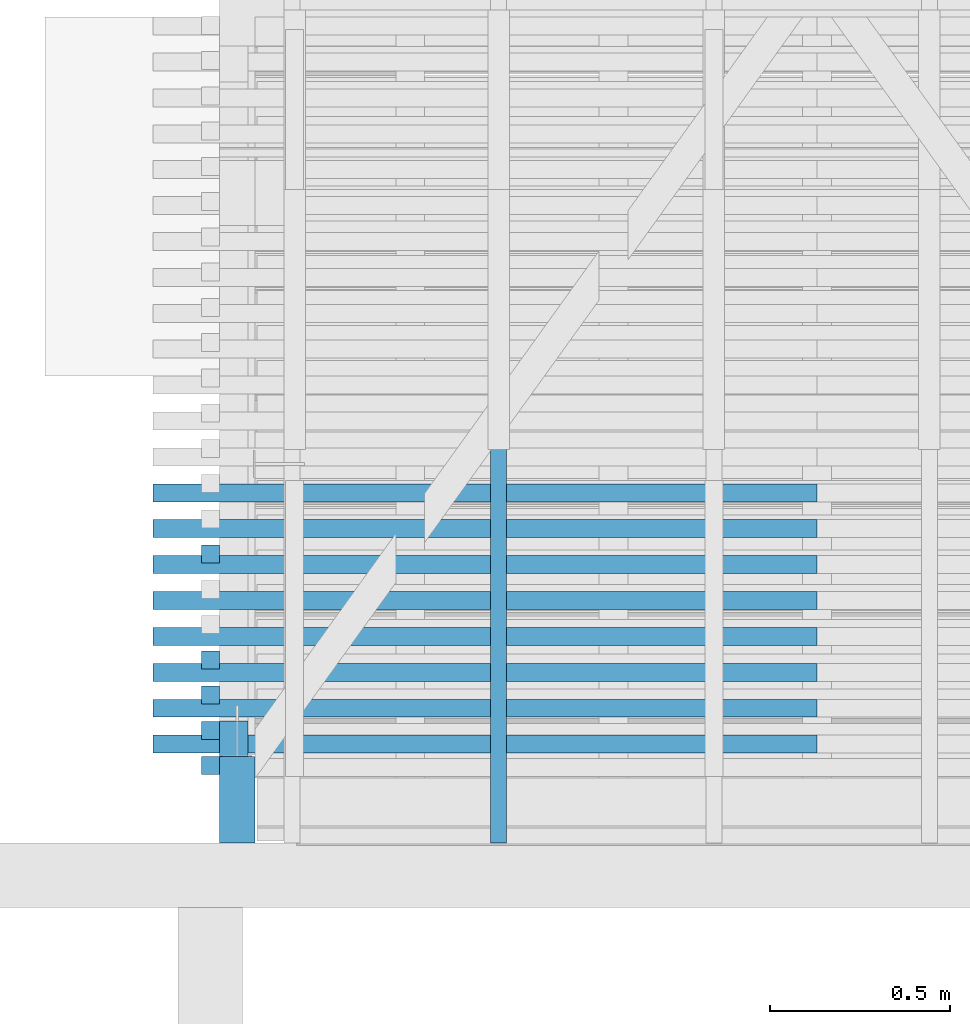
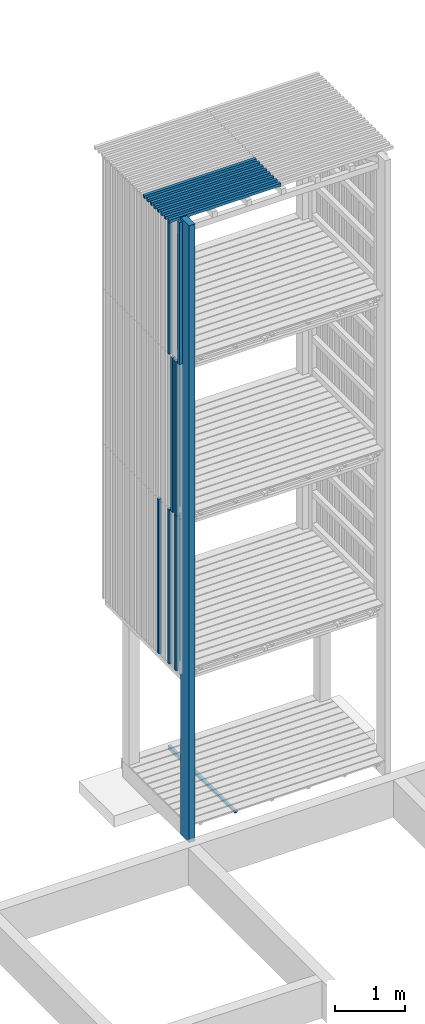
# One storey, part 136 of 182: 20 beams.
"""IFC2X3 building model written with IfcOpenShell, lengths in metres."""

from ifc_helpers import new_model, si_unit, frame, origin, place, context, project, spatial, faceted_brep, element, save


model = new_model("IFC2X3")

# Units and contexts
model_context = context("Model", 3, precision=1e-06, world=origin())
ifc_project = project(units=[si_unit("LENGTHUNIT", "METRE"), si_unit("PLANEANGLEUNIT", "RADIAN")], contexts=[model_context])

# Site, building, storey
site = spatial("IfcSite", under=ifc_project, CompositionType="ELEMENT")
building = spatial("IfcBuilding", under=site, CompositionType="ELEMENT")
storey = spatial("IfcBuildingStorey", under=building, Name="vs", CompositionType="ELEMENT", Elevation=-0.85)

# Beams
placement = place(None, origin())
beam_1_placement = place(placement, frame((33.09499999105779, 10.760077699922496, 8.14699999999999), z_axis=(0.0, 1.0, 0.0), x_axis=(0.0, 0.0, 1.0)))
element("IfcBeam", 1, at=beam_1_placement, inside=storey, Name="Support bardage", context=model_context, shape_type="Brep", body=[
    faceted_brep([(2.017999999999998, -0.039999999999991, 0.05), (2.017999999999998, -0.039999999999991, -0.050000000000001), (2.017999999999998, 0.040000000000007, -0.050000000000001), (2.017999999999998, 0.040000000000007, 0.05), (1e-15, -0.039999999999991, -0.050000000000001), (1e-15, -0.039999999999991, 0.05), (1e-15, 0.040000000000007, 0.05), (1e-15, 0.040000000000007, -0.050000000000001), (2.017999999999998, 0.040000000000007, -0.050000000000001), (2.017999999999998, -0.039999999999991, -0.050000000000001), (1e-15, -0.039999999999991, -0.050000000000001), (1e-15, 0.040000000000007, -0.050000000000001), (1e-15, -0.039999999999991, -0.050000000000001), (2.017999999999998, -0.039999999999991, -0.050000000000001), (2.017999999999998, -0.039999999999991, 0.05), (1e-15, -0.039999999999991, 0.05), (1e-15, -0.039999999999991, 0.05), (2.017999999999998, -0.039999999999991, 0.05), (2.017999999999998, 0.040000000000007, 0.05), (1e-15, 0.040000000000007, 0.05), (1e-15, 0.040000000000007, 0.05), (2.017999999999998, 0.040000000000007, 0.05), (2.017999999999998, 0.040000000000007, -0.050000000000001), (1e-15, 0.040000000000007, -0.050000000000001)], [[[0, 1, 2, 3]], [[4, 5, 6, 7]], [[8, 9, 10, 11]], [[12, 13, 14, 15]], [[16, 17, 18, 19]], [[20, 21, 22, 23]]]),
])
beam_2_placement = place(placement, frame((33.83299999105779, 10.470077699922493, -0.015599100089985), z_axis=(0.0, 0.0, 1.0), x_axis=(0.0, 1.0, 0.0)))
element("IfcBeam", 2, at=beam_2_placement, inside=storey, Name="Calage", context=model_context, shape_type="Brep", body=[
    faceted_brep([(0.0, 0.022499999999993, 0.002600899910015), (1.91000000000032, 0.022499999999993, -0.035599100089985), (1.91000000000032, -0.022500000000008, -0.035599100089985), (0.0, -0.022500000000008, 0.002600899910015), (0.0, -0.022500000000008, 0.035599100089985), (0.0, 0.022499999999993, 0.035599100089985), (0.0, 0.022499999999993, 0.002600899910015), (0.0, -0.022500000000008, 0.002600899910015), (0.0, 0.022499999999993, 0.035599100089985), (0.0, -0.022500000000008, 0.035599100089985), (1.91000000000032, -0.022500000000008, 0.035599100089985), (1.91000000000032, 0.022499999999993, 0.035599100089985), (0.0, 0.022499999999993, 0.002600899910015), (0.0, 0.022499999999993, 0.035599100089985), (1.91000000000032, 0.022499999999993, 0.035599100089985), (1.91000000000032, 0.022499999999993, -0.035599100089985), (1.91000000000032, 0.022499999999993, -0.035599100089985), (1.91000000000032, 0.022499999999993, 0.035599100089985), (1.91000000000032, -0.022500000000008, 0.035599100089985), (1.91000000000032, -0.022500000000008, -0.035599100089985), (1.91000000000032, -0.022500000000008, -0.035599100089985), (1.91000000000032, -0.022500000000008, 0.035599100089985), (0.0, -0.022500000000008, 0.035599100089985), (0.0, -0.022500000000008, 0.002600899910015)], [[[0, 1, 2, 3]], [[4, 5, 6, 7]], [[8, 9, 10, 11]], [[12, 13, 14, 15]], [[16, 17, 18, 19]], [[20, 21, 22, 23]]]),
])
beam_3_placement = place(placement, frame((34.719999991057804, 11.045077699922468, 10.47999999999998), z_axis=(0.0, 0.0, 1.0), x_axis=(-1.0, -2e-15, 0.0)))
element("IfcBeam", 3, at=beam_3_placement, inside=storey, Name="Bardage", context=model_context, shape_type="Brep", body=[
    faceted_brep([(1.850000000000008, -0.025000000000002, -0.024999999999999), (1.850000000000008, -0.025000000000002, 0.025000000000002), (-1e-15, -0.025000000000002, 0.025000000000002), (-1e-15, -0.025000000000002, -0.024999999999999), (1.850000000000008, -0.025000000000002, 0.025000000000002), (1.850000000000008, -0.025000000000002, -0.024999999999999), (1.850000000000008, 0.024999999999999, -0.024999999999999), (1.850000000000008, 0.024999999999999, 0.025000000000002), (1.850000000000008, 0.024999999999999, -0.024999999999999), (1.850000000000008, -0.025000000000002, -0.024999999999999), (-1e-15, -0.025000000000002, -0.024999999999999), (-1e-15, 0.025000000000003, -0.024999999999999), (1.850000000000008, 0.024999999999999, 0.025000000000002), (1.850000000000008, 0.024999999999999, -0.024999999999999), (-1e-15, 0.025000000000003, -0.024999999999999), (-1e-15, 0.025000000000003, 0.025000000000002), (-1e-15, -0.025000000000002, 0.025000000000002), (1.850000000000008, -0.025000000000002, 0.025000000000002), (1.850000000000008, 0.024999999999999, 0.025000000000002), (-1e-15, 0.025000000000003, 0.025000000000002), (-1e-15, -0.025000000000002, -0.024999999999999), (-1e-15, -0.025000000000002, 0.025000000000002), (-1e-15, 0.025000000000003, 0.025000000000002), (-1e-15, 0.025000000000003, -0.024999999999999)], [[[0, 1, 2, 3]], [[4, 5, 6, 7]], [[8, 9, 10, 11]], [[12, 13, 14, 15]], [[16, 17, 18, 19]], [[20, 21, 22, 23]]]),
])
beam_4_placement = place(placement, frame((34.719999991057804, 10.845077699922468, 10.47999999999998), z_axis=(0.0, 0.0, 1.0), x_axis=(-1.0, 0.0, 0.0)))
element("IfcBeam", 4, at=beam_4_placement, inside=storey, Name="Bardage", context=model_context, shape_type="Brep", body=[
    faceted_brep([(1.850000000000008, -0.024999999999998, -0.024999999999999), (1.850000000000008, -0.024999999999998, 0.025000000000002), (-1e-15, -0.024999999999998, 0.025000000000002), (-1e-15, -0.024999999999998, -0.024999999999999), (1.850000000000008, -0.024999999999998, 0.025000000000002), (1.850000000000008, -0.024999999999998, -0.024999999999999), (1.850000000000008, 0.025000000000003, -0.024999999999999), (1.850000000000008, 0.025000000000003, 0.025000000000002), (1.850000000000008, 0.025000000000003, -0.024999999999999), (1.850000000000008, -0.024999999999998, -0.024999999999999), (-1e-15, -0.024999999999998, -0.024999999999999), (-1e-15, 0.025000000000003, -0.024999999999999), (1.850000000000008, 0.025000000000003, 0.025000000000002), (1.850000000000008, 0.025000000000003, -0.024999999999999), (-1e-15, 0.025000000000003, -0.024999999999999), (-1e-15, 0.025000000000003, 0.025000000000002), (-1e-15, -0.024999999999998, 0.025000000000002), (1.850000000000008, -0.024999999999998, 0.025000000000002), (1.850000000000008, 0.025000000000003, 0.025000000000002), (-1e-15, 0.025000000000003, 0.025000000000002), (-1e-15, -0.024999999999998, -0.024999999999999), (-1e-15, -0.024999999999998, 0.025000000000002), (-1e-15, 0.025000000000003, 0.025000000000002), (-1e-15, 0.025000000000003, -0.024999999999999)], [[[0, 1, 2, 3]], [[4, 5, 6, 7]], [[8, 9, 10, 11]], [[12, 13, 14, 15]], [[16, 17, 18, 19]], [[20, 21, 22, 23]]]),
])
beam_5_placement = place(placement, frame((34.719999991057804, 11.345077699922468, 10.47999999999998), z_axis=(0.0, 0.0, 1.0), x_axis=(-1.0, 0.0, 0.0)))
element("IfcBeam", 5, at=beam_5_placement, inside=storey, Name="Bardage", context=model_context, shape_type="Brep", body=[
    faceted_brep([(1.850000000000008, -0.024999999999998, -0.024999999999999), (1.850000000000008, -0.024999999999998, 0.025000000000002), (-1e-15, -0.024999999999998, 0.025000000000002), (-1e-15, -0.024999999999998, -0.024999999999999), (1.850000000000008, -0.024999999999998, 0.025000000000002), (1.850000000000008, -0.024999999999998, -0.024999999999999), (1.850000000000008, 0.025000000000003, -0.024999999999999), (1.850000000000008, 0.025000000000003, 0.025000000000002), (1.850000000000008, 0.025000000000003, -0.024999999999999), (1.850000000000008, -0.024999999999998, -0.024999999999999), (-1e-15, -0.024999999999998, -0.024999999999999), (-1e-15, 0.024999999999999, -0.024999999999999), (1.850000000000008, 0.025000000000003, 0.025000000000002), (1.850000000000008, 0.025000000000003, -0.024999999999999), (-1e-15, 0.024999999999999, -0.024999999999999), (-1e-15, 0.024999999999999, 0.025000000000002), (-1e-15, -0.024999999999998, 0.025000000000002), (1.850000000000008, -0.024999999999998, 0.025000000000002), (1.850000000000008, 0.025000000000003, 0.025000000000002), (-1e-15, 0.024999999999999, 0.025000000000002), (-1e-15, -0.024999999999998, -0.024999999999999), (-1e-15, -0.024999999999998, 0.025000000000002), (-1e-15, 0.024999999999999, 0.025000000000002), (-1e-15, 0.024999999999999, -0.024999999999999)], [[[0, 1, 2, 3]], [[4, 5, 6, 7]], [[8, 9, 10, 11]], [[12, 13, 14, 15]], [[16, 17, 18, 19]], [[20, 21, 22, 23]]]),
])
beam_6_placement = place(placement, frame((34.719999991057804, 10.745077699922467, 10.47999999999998), z_axis=(0.0, 0.0, 1.0), x_axis=(-1.0, 0.0, 0.0)))
element("IfcBeam", 6, at=beam_6_placement, inside=storey, Name="Bardage", context=model_context, shape_type="Brep", body=[
    faceted_brep([(1.850000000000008, -0.025000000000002, -0.024999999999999), (1.850000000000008, -0.025000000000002, 0.025000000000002), (-1e-15, -0.025000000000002, 0.025000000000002), (-1e-15, -0.025000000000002, -0.024999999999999), (1.850000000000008, -0.025000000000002, 0.025000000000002), (1.850000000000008, -0.025000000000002, -0.024999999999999), (1.850000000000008, 0.024999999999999, -0.024999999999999), (1.850000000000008, 0.024999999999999, 0.025000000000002), (1.850000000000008, 0.024999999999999, -0.024999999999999), (1.850000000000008, -0.025000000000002, -0.024999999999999), (-1e-15, -0.025000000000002, -0.024999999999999), (-1e-15, 0.024999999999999, -0.024999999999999), (1.850000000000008, 0.024999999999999, 0.025000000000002), (1.850000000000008, 0.024999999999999, -0.024999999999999), (-1e-15, 0.024999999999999, -0.024999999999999), (-1e-15, 0.024999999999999, 0.025000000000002), (-1e-15, -0.025000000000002, 0.025000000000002), (1.850000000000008, -0.025000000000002, 0.025000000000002), (1.850000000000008, 0.024999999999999, 0.025000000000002), (-1e-15, 0.024999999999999, 0.025000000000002), (-1e-15, -0.025000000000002, -0.024999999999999), (-1e-15, -0.025000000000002, 0.025000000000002), (-1e-15, 0.024999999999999, 0.025000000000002), (-1e-15, 0.024999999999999, -0.024999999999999)], [[[0, 1, 2, 3]], [[4, 5, 6, 7]], [[8, 9, 10, 11]], [[12, 13, 14, 15]], [[16, 17, 18, 19]], [[20, 21, 22, 23]]]),
])
beam_7_placement = place(placement, frame((34.719999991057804, 11.245077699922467, 10.47999999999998), z_axis=(0.0, 0.0, 1.0), x_axis=(-1.0, 0.0, 0.0)))
element("IfcBeam", 7, at=beam_7_placement, inside=storey, Name="Bardage", context=model_context, shape_type="Brep", body=[
    faceted_brep([(1.850000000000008, -0.024999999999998, -0.024999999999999), (1.850000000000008, -0.024999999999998, 0.025000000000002), (-1e-15, -0.024999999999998, 0.025000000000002), (-1e-15, -0.024999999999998, -0.024999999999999), (1.850000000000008, -0.024999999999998, 0.025000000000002), (1.850000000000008, -0.024999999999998, -0.024999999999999), (1.850000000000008, 0.024999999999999, -0.024999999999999), (1.850000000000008, 0.024999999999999, 0.025000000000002), (1.850000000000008, 0.024999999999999, -0.024999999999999), (1.850000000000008, -0.024999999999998, -0.024999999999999), (-1e-15, -0.024999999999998, -0.024999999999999), (-1e-15, 0.024999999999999, -0.024999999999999), (1.850000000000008, 0.024999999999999, 0.025000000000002), (1.850000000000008, 0.024999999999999, -0.024999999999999), (-1e-15, 0.024999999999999, -0.024999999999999), (-1e-15, 0.024999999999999, 0.025000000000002), (-1e-15, -0.024999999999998, 0.025000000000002), (1.850000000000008, -0.024999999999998, 0.025000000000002), (1.850000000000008, 0.024999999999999, 0.025000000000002), (-1e-15, 0.024999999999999, 0.025000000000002), (-1e-15, -0.024999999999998, -0.024999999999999), (-1e-15, -0.024999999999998, 0.025000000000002), (-1e-15, 0.024999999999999, 0.025000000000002), (-1e-15, 0.024999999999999, -0.024999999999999)], [[[0, 1, 2, 3]], [[4, 5, 6, 7]], [[8, 9, 10, 11]], [[12, 13, 14, 15]], [[16, 17, 18, 19]], [[20, 21, 22, 23]]]),
])
beam_8_placement = place(placement, frame((33.029999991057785, 11.274168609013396, 2.575000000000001), z_axis=(1.0, 0.0, 0.0), x_axis=(0.0, 1e-15, 1.0)))
element("IfcBeam", 8, at=beam_8_placement, inside=storey, Name="Bardage", context=model_context, shape_type="Brep", body=[
    faceted_brep([(2.699961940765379, -0.024999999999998, 0.025000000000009), (2.699961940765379, -0.024999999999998, -0.025000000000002), (2.699961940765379, 0.025000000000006, -0.025000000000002), (2.699961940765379, 0.025000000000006, 0.025000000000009), (0.0, -0.025000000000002, 0.025000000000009), (2.699961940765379, -0.024999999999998, 0.025000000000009), (2.699961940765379, 0.025000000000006, 0.025000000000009), (0.0, 0.025000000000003, 0.025000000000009), (0.0, -0.025000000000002, 0.025000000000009), (0.0, 0.025000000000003, 0.025000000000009), (0.0, 0.025000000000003, -0.025000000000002), (0.0, -0.025000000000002, -0.025000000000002), (0.0, -0.025000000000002, 0.025000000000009), (0.0, -0.025000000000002, -0.025000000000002), (2.699961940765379, -0.024999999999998, -0.025000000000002), (2.699961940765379, -0.024999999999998, 0.025000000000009), (0.0, -0.025000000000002, -0.025000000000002), (0.0, 0.025000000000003, -0.025000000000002), (2.699961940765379, 0.025000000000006, -0.025000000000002), (2.699961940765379, -0.024999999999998, -0.025000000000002), (0.0, 0.025000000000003, -0.025000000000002), (0.0, 0.025000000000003, 0.025000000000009), (2.699961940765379, 0.025000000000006, 0.025000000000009), (2.699961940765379, 0.025000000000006, -0.025000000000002)], [[[0, 1, 2, 3]], [[4, 5, 6, 7]], [[8, 9, 10, 11]], [[12, 13, 14, 15]], [[16, 17, 18, 19]], [[20, 21, 22, 23]]]),
])
beam_9_placement = place(placement, frame((33.029999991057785, 10.979623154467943, 7.974999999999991), z_axis=(1.0, 0.0, 0.0), x_axis=(0.0, 1e-15, 1.0)))
element("IfcBeam", 9, at=beam_9_placement, inside=storey, Name="Bardage", context=model_context, shape_type="Brep", body=[
    faceted_brep([(0.0, -0.025000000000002, 0.025000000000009), (0.0, 0.024999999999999, 0.025000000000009), (0.0, 0.024999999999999, -0.025000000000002), (0.0, -0.025000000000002, -0.025000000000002), (2.479999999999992, 0.025000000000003, -0.025000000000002), (2.479999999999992, 0.025000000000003, 0.025000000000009), (2.479999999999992, -0.024999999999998, 0.025000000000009), (2.479999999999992, -0.024999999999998, -0.025000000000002), (0.0, 0.024999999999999, 0.025000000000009), (0.0, -0.025000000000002, 0.025000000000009), (2.479999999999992, -0.024999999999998, 0.025000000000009), (2.479999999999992, 0.025000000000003, 0.025000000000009), (0.0, 0.024999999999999, -0.025000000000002), (0.0, 0.024999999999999, 0.025000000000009), (2.479999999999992, 0.025000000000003, 0.025000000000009), (2.479999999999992, 0.025000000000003, -0.025000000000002), (0.0, -0.025000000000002, -0.025000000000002), (0.0, 0.024999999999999, -0.025000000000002), (2.479999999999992, 0.025000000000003, -0.025000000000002), (2.479999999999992, -0.024999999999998, -0.025000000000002), (2.479999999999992, -0.024999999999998, 0.025000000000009), (0.0, -0.025000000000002, 0.025000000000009), (0.0, -0.025000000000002, -0.025000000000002), (2.479999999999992, -0.024999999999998, -0.025000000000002)], [[[0, 1, 2, 3]], [[4, 5, 6, 7]], [[8, 9, 10, 11]], [[12, 13, 14, 15]], [[16, 17, 18, 19]], [[20, 21, 22, 23]]]),
])
beam_10_placement = place(placement, frame((33.029999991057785, 10.979623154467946, 2.575000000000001), z_axis=(1.0, 0.0, 0.0), x_axis=(0.0, 0.0, 1.0)))
element("IfcBeam", 10, at=beam_10_placement, inside=storey, Name="Bardage", context=model_context, shape_type="Brep", body=[
    faceted_brep([(2.699961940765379, -0.025000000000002, 0.025000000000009), (2.699961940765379, -0.025000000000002, -0.025000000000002), (2.699961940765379, 0.025000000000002, -0.025000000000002), (2.699961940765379, 0.025000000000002, 0.025000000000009), (0.0, -0.024999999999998, 0.025000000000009), (2.699961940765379, -0.025000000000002, 0.025000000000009), (2.699961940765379, 0.025000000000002, 0.025000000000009), (0.0, 0.025000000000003, 0.025000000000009), (0.0, -0.024999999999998, 0.025000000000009), (0.0, 0.025000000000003, 0.025000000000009), (0.0, 0.025000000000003, -0.025000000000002), (0.0, -0.024999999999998, -0.025000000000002), (0.0, -0.024999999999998, 0.025000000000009), (0.0, -0.024999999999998, -0.025000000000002), (2.699961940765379, -0.025000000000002, -0.025000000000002), (2.699961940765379, -0.025000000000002, 0.025000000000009), (0.0, -0.024999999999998, -0.025000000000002), (0.0, 0.025000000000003, -0.025000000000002), (2.699961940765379, 0.025000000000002, -0.025000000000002), (2.699961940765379, -0.025000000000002, -0.025000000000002), (0.0, 0.025000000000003, -0.025000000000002), (0.0, 0.025000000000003, 0.025000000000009), (2.699961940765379, 0.025000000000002, 0.025000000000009), (2.699961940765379, 0.025000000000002, -0.025000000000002)], [[[0, 1, 2, 3]], [[4, 5, 6, 7]], [[8, 9, 10, 11]], [[12, 13, 14, 15]], [[16, 17, 18, 19]], [[20, 21, 22, 23]]]),
])
beam_11_placement = place(placement, frame((34.719999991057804, 10.945077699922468, 10.47999999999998), z_axis=(0.0, 0.0, 1.0), x_axis=(-1.0, -2e-15, 0.0)))
element("IfcBeam", 11, at=beam_11_placement, inside=storey, Name="Bardage", context=model_context, shape_type="Brep", body=[
    faceted_brep([(1.850000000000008, -0.025000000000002, -0.024999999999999), (1.850000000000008, -0.025000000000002, 0.025000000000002), (-1e-15, -0.024999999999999, 0.025000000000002), (-1e-15, -0.024999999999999, -0.024999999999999), (1.850000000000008, -0.025000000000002, 0.025000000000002), (1.850000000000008, -0.025000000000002, -0.024999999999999), (1.850000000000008, 0.025000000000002, -0.024999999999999), (1.850000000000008, 0.025000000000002, 0.025000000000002), (1.850000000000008, 0.025000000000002, -0.024999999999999), (1.850000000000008, -0.025000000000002, -0.024999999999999), (-1e-15, -0.024999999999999, -0.024999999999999), (0.0, 0.025000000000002, -0.024999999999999), (1.850000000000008, 0.025000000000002, 0.025000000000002), (1.850000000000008, 0.025000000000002, -0.024999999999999), (0.0, 0.025000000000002, -0.024999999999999), (0.0, 0.025000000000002, 0.025000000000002), (-1e-15, -0.024999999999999, 0.025000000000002), (1.850000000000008, -0.025000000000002, 0.025000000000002), (1.850000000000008, 0.025000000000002, 0.025000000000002), (0.0, 0.025000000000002, 0.025000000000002), (-1e-15, -0.024999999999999, -0.024999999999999), (-1e-15, -0.024999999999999, 0.025000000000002), (0.0, 0.025000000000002, 0.025000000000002), (0.0, 0.025000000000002, -0.024999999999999)], [[[0, 1, 2, 3]], [[4, 5, 6, 7]], [[8, 9, 10, 11]], [[12, 13, 14, 15]], [[16, 17, 18, 19]], [[20, 21, 22, 23]]]),
])
beam_12_placement = place(placement, frame((33.104999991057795, 10.590077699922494, 10.494999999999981), z_axis=(0.0, 1.0, 0.0), x_axis=(0.0, 0.0, -1.0)))
element("IfcBeam", 12, at=beam_12_placement, inside=storey, Name="Poteau", context=model_context, shape_type="Brep", body=[
    faceted_brep([(0.0, -0.049999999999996, 0.120000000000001), (0.0, -0.049999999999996, -0.120000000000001), (10.754999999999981, -0.049999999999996, -0.120000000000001), (10.754999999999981, -0.049999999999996, 0.120000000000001), (10.754999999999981, -0.049999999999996, -0.120000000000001), (0.0, -0.049999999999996, -0.120000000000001), (0.0, 0.049999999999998, -0.120000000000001), (10.754999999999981, 0.049999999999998, -0.120000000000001), (10.754999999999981, -0.049999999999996, 0.120000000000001), (10.754999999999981, -0.049999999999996, -0.120000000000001), (10.754999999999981, 0.049999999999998, -0.120000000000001), (10.754999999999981, 0.049999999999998, 0.120000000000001), (0.0, -0.049999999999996, 0.120000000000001), (10.754999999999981, -0.049999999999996, 0.120000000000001), (10.754999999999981, 0.049999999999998, 0.120000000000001), (0.0, 0.049999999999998, 0.120000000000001), (10.754999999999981, 0.049999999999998, -0.120000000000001), (0.0, 0.049999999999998, -0.120000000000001), (0.0, 0.049999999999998, 0.120000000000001), (10.754999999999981, 0.049999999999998, 0.120000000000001), (0.0, 0.049999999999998, 0.120000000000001), (0.0, 0.049999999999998, -0.120000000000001), (0.0, -0.049999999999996, -0.120000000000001), (0.0, -0.049999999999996, 0.120000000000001)], [[[0, 1, 2, 3]], [[4, 5, 6, 7]], [[8, 9, 10, 11]], [[12, 13, 14, 15]], [[16, 17, 18, 19]], [[20, 21, 22, 23]]]),
])
beam_13_placement = place(placement, frame((33.029999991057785, 10.881441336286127, 5.274999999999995), z_axis=(1.0, 0.0, 0.0), x_axis=(0.0, 0.0, 1.0)))
element("IfcBeam", 13, at=beam_13_placement, inside=storey, Name="Bardage", context=model_context, shape_type="Brep", body=[
    faceted_brep([(2.699999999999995, 0.024999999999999, 0.025000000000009), (2.699999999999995, -0.024999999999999, 0.025000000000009), (2.699999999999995, -0.024999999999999, -0.025000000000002), (2.699999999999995, 0.024999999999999, -0.025000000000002), (1e-15, 0.024999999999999, 0.025000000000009), (2.699999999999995, 0.024999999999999, 0.025000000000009), (2.699999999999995, 0.024999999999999, -0.025000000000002), (1e-15, 0.024999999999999, -0.025000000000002), (1e-15, -0.024999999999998, 0.025000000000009), (1e-15, 0.024999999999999, 0.025000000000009), (1e-15, 0.024999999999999, -0.025000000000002), (1e-15, -0.024999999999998, -0.025000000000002), (1e-15, 0.024999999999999, 0.025000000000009), (1e-15, -0.024999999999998, 0.025000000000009), (2.699999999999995, -0.024999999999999, 0.025000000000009), (2.699999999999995, 0.024999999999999, 0.025000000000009), (1e-15, -0.024999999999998, 0.025000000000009), (1e-15, -0.024999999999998, -0.025000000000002), (2.699999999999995, -0.024999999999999, -0.025000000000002), (2.699999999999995, -0.024999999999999, 0.025000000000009), (1e-15, -0.024999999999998, -0.025000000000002), (1e-15, 0.024999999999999, -0.025000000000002), (2.699999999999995, 0.024999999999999, -0.025000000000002), (2.699999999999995, -0.024999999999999, -0.025000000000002)], [[[0, 1, 2, 3]], [[4, 5, 6, 7]], [[8, 9, 10, 11]], [[12, 13, 14, 15]], [[16, 17, 18, 19]], [[20, 21, 22, 23]]]),
])
beam_14_placement = place(placement, frame((33.029999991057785, 10.783259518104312, 5.274999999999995), z_axis=(1.0, 0.0, 0.0), x_axis=(0.0, 0.0, 1.0)))
element("IfcBeam", 14, at=beam_14_placement, inside=storey, Name="Bardage", context=model_context, shape_type="Brep", body=[
    faceted_brep([(2.699999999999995, 0.025000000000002, 0.025000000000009), (2.699999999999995, -0.024999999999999, 0.025000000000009), (2.699999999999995, -0.024999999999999, -0.025000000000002), (2.699999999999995, 0.025000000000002, -0.025000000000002), (1e-15, 0.025000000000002, 0.025000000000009), (2.699999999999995, 0.025000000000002, 0.025000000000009), (2.699999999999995, 0.025000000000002, -0.025000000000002), (1e-15, 0.025000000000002, -0.025000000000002), (1e-15, -0.024999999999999, 0.025000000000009), (1e-15, 0.025000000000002, 0.025000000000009), (1e-15, 0.025000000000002, -0.025000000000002), (1e-15, -0.024999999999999, -0.025000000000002), (1e-15, 0.025000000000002, 0.025000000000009), (1e-15, -0.024999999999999, 0.025000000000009), (2.699999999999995, -0.024999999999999, 0.025000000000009), (2.699999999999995, 0.025000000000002, 0.025000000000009), (1e-15, -0.024999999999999, 0.025000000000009), (1e-15, -0.024999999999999, -0.025000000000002), (2.699999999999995, -0.024999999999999, -0.025000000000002), (2.699999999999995, -0.024999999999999, 0.025000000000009), (1e-15, -0.024999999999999, -0.025000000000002), (1e-15, 0.025000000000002, -0.025000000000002), (2.699999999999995, 0.025000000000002, -0.025000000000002), (2.699999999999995, -0.024999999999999, -0.025000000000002)], [[[0, 1, 2, 3]], [[4, 5, 6, 7]], [[8, 9, 10, 11]], [[12, 13, 14, 15]], [[16, 17, 18, 19]], [[20, 21, 22, 23]]]),
])
beam_15_placement = place(placement, frame((33.09499999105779, 10.760077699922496, 2.746999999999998), z_axis=(0.0, 1.0, 0.0), x_axis=(0.0, 0.0, 1.0)))
element("IfcBeam", 15, at=beam_15_placement, inside=storey, Name="Support bardage", context=model_context, shape_type="Brep", body=[
    faceted_brep([(2.527961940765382, 0.040000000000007, -0.050000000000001), (2.527961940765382, 0.040000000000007, 0.05), (2.527961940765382, -0.039999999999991, 0.05), (2.527961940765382, -0.039999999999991, -0.050000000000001), (0.0, 0.040000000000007, -0.050000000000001), (2.527961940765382, 0.040000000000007, -0.050000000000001), (2.527961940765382, -0.039999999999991, -0.050000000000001), (0.0, -0.039999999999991, -0.050000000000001), (0.0, 0.040000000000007, -0.050000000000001), (0.0, -0.039999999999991, -0.050000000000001), (0.0, -0.039999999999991, 0.05), (0.0, 0.040000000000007, 0.05), (0.0, 0.040000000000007, -0.050000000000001), (0.0, 0.040000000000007, 0.05), (2.527961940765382, 0.040000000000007, 0.05), (2.527961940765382, 0.040000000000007, -0.050000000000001), (0.0, 0.040000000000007, 0.05), (0.0, -0.039999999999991, 0.05), (2.527961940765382, -0.039999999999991, 0.05), (2.527961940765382, 0.040000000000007, 0.05), (0.0, -0.039999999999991, 0.05), (0.0, -0.039999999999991, -0.050000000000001), (2.527961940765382, -0.039999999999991, -0.050000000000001), (2.527961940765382, -0.039999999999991, 0.05)], [[[0, 1, 2, 3]], [[4, 5, 6, 7]], [[8, 9, 10, 11]], [[12, 13, 14, 15]], [[16, 17, 18, 19]], [[20, 21, 22, 23]]]),
])
beam_16_placement = place(placement, frame((34.719999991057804, 11.44507769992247, 10.47999999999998), z_axis=(0.0, 0.0, 1.0), x_axis=(-1.0, -2e-15, 0.0)))
element("IfcBeam", 16, at=beam_16_placement, inside=storey, Name="Bardage", context=model_context, shape_type="Brep", body=[
    faceted_brep([(1.850000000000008, -0.025000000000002, -0.024999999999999), (1.850000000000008, -0.025000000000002, 0.025000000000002), (-1e-15, -0.024999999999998, 0.025000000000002), (-1e-15, -0.024999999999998, -0.024999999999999), (1.850000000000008, -0.025000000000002, 0.025000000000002), (1.850000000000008, -0.025000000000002, -0.024999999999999), (1.850000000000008, 0.025000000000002, -0.024999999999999), (1.850000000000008, 0.025000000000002, 0.025000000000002), (1.850000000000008, 0.025000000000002, -0.024999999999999), (1.850000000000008, -0.025000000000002, -0.024999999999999), (-1e-15, -0.024999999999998, -0.024999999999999), (-1e-15, 0.025000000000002, -0.024999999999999), (1.850000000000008, 0.025000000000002, 0.025000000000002), (1.850000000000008, 0.025000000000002, -0.024999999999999), (-1e-15, 0.025000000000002, -0.024999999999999), (-1e-15, 0.025000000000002, 0.025000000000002), (-1e-15, -0.024999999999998, 0.025000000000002), (1.850000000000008, -0.025000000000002, 0.025000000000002), (1.850000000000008, 0.025000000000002, 0.025000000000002), (-1e-15, 0.025000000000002, 0.025000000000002), (-1e-15, -0.024999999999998, -0.024999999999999), (-1e-15, -0.024999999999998, 0.025000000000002), (-1e-15, 0.025000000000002, 0.025000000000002), (-1e-15, 0.025000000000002, -0.024999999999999)], [[[0, 1, 2, 3]], [[4, 5, 6, 7]], [[8, 9, 10, 11]], [[12, 13, 14, 15]], [[16, 17, 18, 19]], [[20, 21, 22, 23]]]),
])
beam_17_placement = place(placement, frame((33.09499999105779, 10.760077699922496, 5.446999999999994), z_axis=(0.0, 1.0, 0.0), x_axis=(0.0, 0.0, 1.0)))
element("IfcBeam", 17, at=beam_17_placement, inside=storey, Name="Support bardage", context=model_context, shape_type="Brep", body=[
    faceted_brep([(2.527999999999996, -0.039999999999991, -0.050000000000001), (2.527999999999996, 0.040000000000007, -0.050000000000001), (2.527999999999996, 0.040000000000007, 0.05), (2.527999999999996, -0.039999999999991, 0.05), (-1e-15, -0.039999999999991, -0.050000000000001), (2.527999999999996, -0.039999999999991, -0.050000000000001), (2.527999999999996, -0.039999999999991, 0.05), (-1e-15, -0.039999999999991, 0.05), (-1e-15, -0.039999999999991, -0.050000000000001), (-1e-15, -0.039999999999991, 0.05), (-1e-15, 0.040000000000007, 0.05), (-1e-15, 0.040000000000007, -0.050000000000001), (-1e-15, -0.039999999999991, -0.050000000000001), (-1e-15, 0.040000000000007, -0.050000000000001), (2.527999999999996, 0.040000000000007, -0.050000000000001), (2.527999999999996, -0.039999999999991, -0.050000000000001), (-1e-15, 0.040000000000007, -0.050000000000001), (-1e-15, 0.040000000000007, 0.05), (2.527999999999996, 0.040000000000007, 0.05), (2.527999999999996, 0.040000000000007, -0.050000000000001), (-1e-15, 0.040000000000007, 0.05), (-1e-15, -0.039999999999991, 0.05), (2.527999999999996, -0.039999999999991, 0.05), (2.527999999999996, 0.040000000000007, 0.05)], [[[0, 1, 2, 3]], [[4, 5, 6, 7]], [[8, 9, 10, 11]], [[12, 13, 14, 15]], [[16, 17, 18, 19]], [[20, 21, 22, 23]]]),
])
beam_18_placement = place(placement, frame((33.029999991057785, 10.6850776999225, 7.974999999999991), z_axis=(1.0, 0.0, 0.0), x_axis=(0.0, 0.0, 1.0)))
element("IfcBeam", 18, at=beam_18_placement, inside=storey, Name="Bardage", context=model_context, shape_type="Brep", body=[
    faceted_brep([(0.0, -0.024999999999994, 0.025000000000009), (0.0, 0.025000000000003, 0.025000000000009), (0.0, 0.025000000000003, -0.025000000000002), (0.0, -0.024999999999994, -0.025000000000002), (2.479999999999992, 0.025000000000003, -0.025000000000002), (2.479999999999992, 0.025000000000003, 0.025000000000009), (2.479999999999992, -0.024999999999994, 0.025000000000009), (2.479999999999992, -0.024999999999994, -0.025000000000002), (0.0, 0.025000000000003, 0.025000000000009), (0.0, -0.024999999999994, 0.025000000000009), (2.479999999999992, -0.024999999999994, 0.025000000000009), (2.479999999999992, 0.025000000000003, 0.025000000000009), (0.0, 0.025000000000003, -0.025000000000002), (0.0, 0.025000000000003, 0.025000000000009), (2.479999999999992, 0.025000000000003, 0.025000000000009), (2.479999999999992, 0.025000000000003, -0.025000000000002), (0.0, -0.024999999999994, -0.025000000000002), (0.0, 0.025000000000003, -0.025000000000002), (2.479999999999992, 0.025000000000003, -0.025000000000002), (2.479999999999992, -0.024999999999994, -0.025000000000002), (2.479999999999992, -0.024999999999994, 0.025000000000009), (0.0, -0.024999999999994, 0.025000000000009), (0.0, -0.024999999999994, -0.025000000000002), (2.479999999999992, -0.024999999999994, -0.025000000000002)], [[[0, 1, 2, 3]], [[4, 5, 6, 7]], [[8, 9, 10, 11]], [[12, 13, 14, 15]], [[16, 17, 18, 19]], [[20, 21, 22, 23]]]),
])
beam_19_placement = place(placement, frame((34.719999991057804, 11.145077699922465, 10.47999999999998), z_axis=(0.0, 0.0, 1.0), x_axis=(-1.0, 0.0, 0.0)))
element("IfcBeam", 19, at=beam_19_placement, inside=storey, Name="Bardage", context=model_context, shape_type="Brep", body=[
    faceted_brep([(1.850000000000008, -0.024999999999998, -0.024999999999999), (1.850000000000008, -0.024999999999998, 0.025000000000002), (-1e-15, -0.025000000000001, 0.025000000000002), (-1e-15, -0.025000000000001, -0.024999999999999), (1.850000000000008, -0.024999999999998, 0.025000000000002), (1.850000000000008, -0.024999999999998, -0.024999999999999), (1.850000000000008, 0.024999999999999, -0.024999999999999), (1.850000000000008, 0.024999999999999, 0.025000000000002), (1.850000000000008, 0.024999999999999, -0.024999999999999), (1.850000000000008, -0.024999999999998, -0.024999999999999), (-1e-15, -0.025000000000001, -0.024999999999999), (-1e-15, 0.024999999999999, -0.024999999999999), (1.850000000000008, 0.024999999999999, 0.025000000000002), (1.850000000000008, 0.024999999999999, -0.024999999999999), (-1e-15, 0.024999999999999, -0.024999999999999), (-1e-15, 0.024999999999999, 0.025000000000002), (-1e-15, -0.025000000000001, 0.025000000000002), (1.850000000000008, -0.024999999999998, 0.025000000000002), (1.850000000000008, 0.024999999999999, 0.025000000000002), (-1e-15, 0.024999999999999, 0.025000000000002), (-1e-15, -0.025000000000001, -0.024999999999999), (-1e-15, -0.025000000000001, 0.025000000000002), (-1e-15, 0.024999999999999, 0.025000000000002), (-1e-15, 0.024999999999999, -0.024999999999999)], [[[0, 1, 2, 3]], [[4, 5, 6, 7]], [[8, 9, 10, 11]], [[12, 13, 14, 15]], [[16, 17, 18, 19]], [[20, 21, 22, 23]]]),
])
beam_20_placement = place(placement, frame((33.029999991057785, 10.783259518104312, 2.575000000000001), z_axis=(1.0, 0.0, 0.0), x_axis=(0.0, 0.0, 1.0)))
element("IfcBeam", 20, at=beam_20_placement, inside=storey, Name="Bardage", context=model_context, shape_type="Brep", body=[
    faceted_brep([(2.699961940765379, -0.024999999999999, 0.025000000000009), (2.699961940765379, -0.024999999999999, -0.025000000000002), (2.699961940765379, 0.025000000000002, -0.025000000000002), (2.699961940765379, 0.025000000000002, 0.025000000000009), (0.0, -0.024999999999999, 0.025000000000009), (2.699961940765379, -0.024999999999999, 0.025000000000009), (2.699961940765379, 0.025000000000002, 0.025000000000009), (0.0, 0.025000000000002, 0.025000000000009), (0.0, -0.024999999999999, 0.025000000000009), (0.0, 0.025000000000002, 0.025000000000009), (0.0, 0.025000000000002, -0.025000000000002), (0.0, -0.024999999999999, -0.025000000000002), (0.0, -0.024999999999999, 0.025000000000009), (0.0, -0.024999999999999, -0.025000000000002), (2.699961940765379, -0.024999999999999, -0.025000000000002), (2.699961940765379, -0.024999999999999, 0.025000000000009), (0.0, -0.024999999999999, -0.025000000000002), (0.0, 0.025000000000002, -0.025000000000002), (2.699961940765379, 0.025000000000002, -0.025000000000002), (2.699961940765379, -0.024999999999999, -0.025000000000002), (0.0, 0.025000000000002, -0.025000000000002), (0.0, 0.025000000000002, 0.025000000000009), (2.699961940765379, 0.025000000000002, 0.025000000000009), (2.699961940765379, 0.025000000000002, -0.025000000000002)], [[[0, 1, 2, 3]], [[4, 5, 6, 7]], [[8, 9, 10, 11]], [[12, 13, 14, 15]], [[16, 17, 18, 19]], [[20, 21, 22, 23]]]),
])

save(model, "model.ifc")
